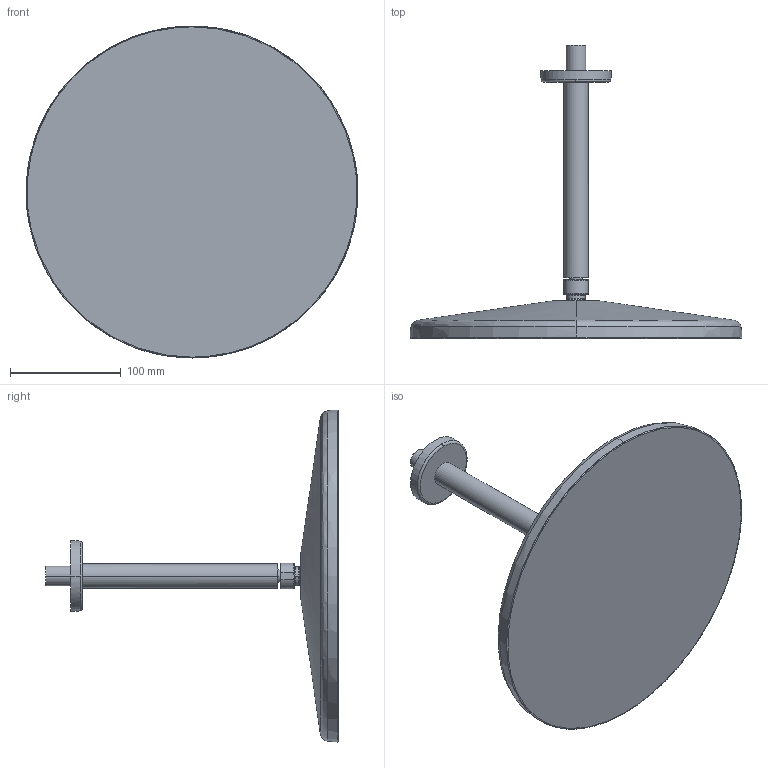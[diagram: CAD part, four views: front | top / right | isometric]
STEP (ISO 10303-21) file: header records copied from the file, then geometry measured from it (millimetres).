
FILE_DESCRIPTION (( 'STEP AP203' ), '1' );
FILE_NAME ('47270300(2024).STEP', '2024-01-12T08:15:45', ( '' ), ( '' ), 'SwSTEP 2.0', 'SolidWorks 2016', '' );
FILE_SCHEMA (( 'CONFIG_CONTROL_DESIGN' ));
Length unit declared in the file: millimetre
Products named in the file (1): 47270300(2024)
Bounding box: 300 x 264.73 x 300 mm (x, y, z)
Volume: 1688483.3 mm3; surface area: 176584.4 mm2
Topology: 1 solids, 1 shells, 57 faces, 146 edges, 98 vertices
Faces by surface type: bspline 29, cylinder 14, plane 10, torus 2, cone 2
Entity records: 4339 total; most frequent: CARTESIAN_POINT 2986, ORIENTED_EDGE 292, DIRECTION 256, EDGE_CURVE 146, AXIS2_PLACEMENT_3D 119, VERTEX_POINT 98, CIRCLE 90, EDGE_LOOP 64
